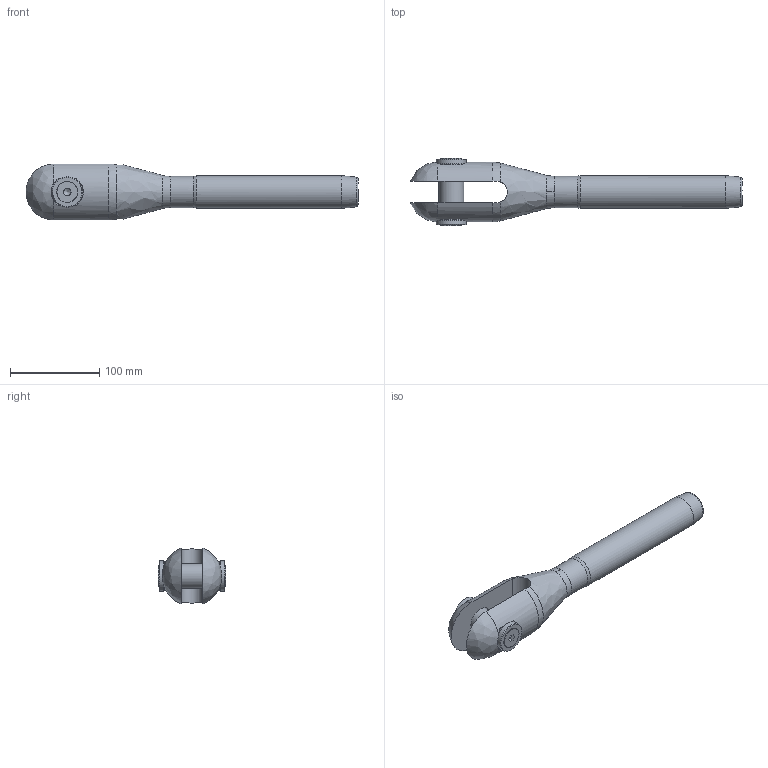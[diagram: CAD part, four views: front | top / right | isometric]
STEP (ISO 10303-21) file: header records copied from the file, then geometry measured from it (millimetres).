
FILE_DESCRIPTION(/* description */ (''),/* implementation_level */ '2;1');
FILE_NAME(/* name */ 'MAC 20_42CrMo4',/* time_stamp */ '2023-05-23T16:55:17+02:00',/* author */ (''),/* organization */ (''),/* preprocessor_version */ 'ST-DEVELOPER v16.5',/* originating_system */ 'Rhino 7.22',/* authorisation */ '');
FILE_SCHEMA (('CONFIG_CONTROL_DESIGN'));
Length unit declared in the file: millimetre
Products named in the file (1): Document
Bounding box: 372.26 x 75.41 x 62.55 mm (x, y, z)
Volume: 521182 mm3; surface area: 80275.6 mm2
Topology: 6 solids, 6 shells, 75 faces, 210 edges, 145 vertices
Faces by surface type: plane 29, bspline 24, cylinder 22
Full cylindrical faces by diameter (mm): 10.106 x2, 12 x2, 12.5 x2, 23.12 x2, 28 x1, 30 x2, 34 x2, 35 x1, 36.8 x1
Entity records: 3138 total; most frequent: CARTESIAN_POINT 1791, ORIENTED_EDGE 412, EDGE_CURVE 206, VERTEX_POINT 145, EDGE_LOOP 85, B_SPLINE_CURVE_WITH_KNOTS 84, ADVANCED_FACE 75, FACE_OUTER_BOUND 75
